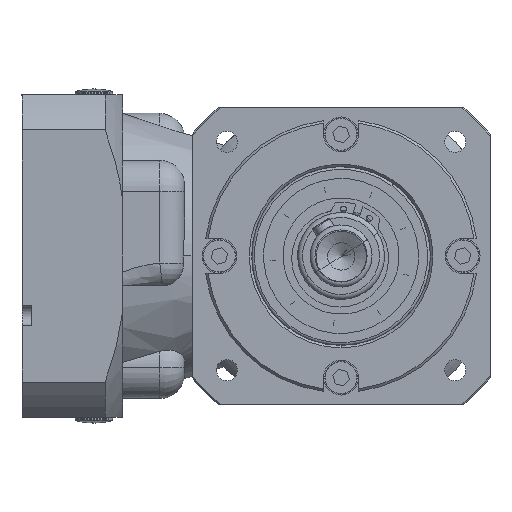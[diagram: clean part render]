
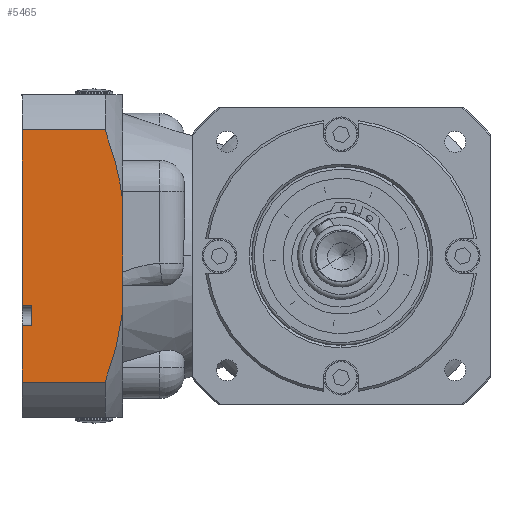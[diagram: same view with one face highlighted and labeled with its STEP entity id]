
A CAD part, left-side view. The second image highlights one B-rep face of the part: STEP entity #5465.
In plain terms, the highlighted planar face has unit normal (-1, 0, 0).
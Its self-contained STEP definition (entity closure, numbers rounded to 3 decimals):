
#662 = CARTESIAN_POINT ( 'NONE',  ( 108., 88.322, 25.033 ) ) ;
#796 = CARTESIAN_POINT ( 'NONE',  ( 108., 91.85, 41.691 ) ) ;
#867 = FACE_OUTER_BOUND ( 'NONE', #19891, .T. ) ;
#1062 = EDGE_CURVE ( 'NONE', #21695, #28788, #27944, .T. ) ;
#1340 = VECTOR ( 'NONE', #18465, 1000. ) ;
#1983 = VECTOR ( 'NONE', #16624, 1000. ) ;
#1986 = CARTESIAN_POINT ( 'NONE',  ( 108., 95.052, 50.806 ) ) ;
#2101 = VECTOR ( 'NONE', #8259, 1000. ) ;
#3272 = ORIENTED_EDGE ( 'NONE', *, *, #18742, .T. ) ;
#3423 = CARTESIAN_POINT ( 'NONE',  ( 108., 128.5, -65. ) ) ;
#3779 = EDGE_CURVE ( 'NONE', #20721, #31359, #21697, .T. ) ;
#4300 = CARTESIAN_POINT ( 'NONE',  ( 108., 128.5, -65. ) ) ;
#4452 = CARTESIAN_POINT ( 'NONE',  ( 108., 124.5, -20. ) ) ;
#4499 = ORIENTED_EDGE ( 'NONE', *, *, #29299, .F. ) ;
#4855 = VERTEX_POINT ( 'NONE', #10830 ) ;
#5333 = PLANE ( 'NONE',  #9742 ) ;
#5465 = ADVANCED_FACE ( 'NONE', ( #867 ), #5333, .F. ) ;
#5650 = DIRECTION ( 'NONE',  ( 0., -1., 0. ) ) ;
#6890 = ORIENTED_EDGE ( 'NONE', *, *, #11407, .F. ) ;
#7391 = CARTESIAN_POINT ( 'NONE',  ( 108., 93.288, 46.305 ) ) ;
#8015 = CARTESIAN_POINT ( 'NONE',  ( 108., 88., 22.62 ) ) ;
#8259 = DIRECTION ( 'NONE',  ( 0., 1., 0. ) ) ;
#8360 = CARTESIAN_POINT ( 'NONE',  ( 108., 88., -22.62 ) ) ;
#8402 = ORIENTED_EDGE ( 'NONE', *, *, #1062, .F. ) ;
#8787 = CARTESIAN_POINT ( 'NONE',  ( 108., 85.5, 50.806 ) ) ;
#9188 = CARTESIAN_POINT ( 'NONE',  ( 108., 88., -22.62 ) ) ;
#9742 = AXIS2_PLACEMENT_3D ( 'NONE', #11859, #34527, #28144 ) ;
#9800 = CARTESIAN_POINT ( 'NONE',  ( 108., 88., -65. ) ) ;
#10221 = EDGE_CURVE ( 'NONE', #25975, #31359, #29430, .T. ) ;
#10249 = CARTESIAN_POINT ( 'NONE',  ( 108., 88.703, 27.44 ) ) ;
#10602 = CARTESIAN_POINT ( 'NONE',  ( 108., 124.5, -65. ) ) ;
#10830 = CARTESIAN_POINT ( 'NONE',  ( 108., 128.5, -28. ) ) ;
#11407 = EDGE_CURVE ( 'NONE', #38146, #36465, #41942, .T. ) ;
#11859 = CARTESIAN_POINT ( 'NONE',  ( 108., 128.5, -65. ) ) ;
#13154 = CARTESIAN_POINT ( 'NONE',  ( 108., 93.254, -46.217 ) ) ;
#13348 = CARTESIAN_POINT ( 'NONE',  ( 108., 128.5, -20. ) ) ;
#13443 = ORIENTED_EDGE ( 'NONE', *, *, #37614, .T. ) ;
#14097 = CARTESIAN_POINT ( 'NONE',  ( 108., 128.5, 50.806 ) ) ;
#14758 = B_SPLINE_CURVE_WITH_KNOTS ( 'NONE', 3,
 ( #20207, #7391, #796, #29837, #16922, #10249, #662, #17068 ),
 .UNSPECIFIED., .F., .F.,
 ( 4, 2, 2, 4 ),
 ( 0.525, 0.539, 0.546, 0.553 ),
 .UNSPECIFIED. ) ;
#15630 = CARTESIAN_POINT ( 'NONE',  ( 108., 128.5, -20. ) ) ;
#15709 = CARTESIAN_POINT ( 'NONE',  ( 108., 88.639, -27.411 ) ) ;
#16092 = EDGE_CURVE ( 'NONE', #28788, #4855, #37578, .T. ) ;
#16620 = B_SPLINE_CURVE_WITH_KNOTS ( 'NONE', 3,
 ( #9188, #15709, #19991, #29480, #13154, #23277 ),
 .UNSPECIFIED., .F., .F.,
 ( 4, 2, 4 ),
 ( 0.023, 0.037, 0.052 ),
 .UNSPECIFIED. ) ;
#16624 = DIRECTION ( 'NONE',  ( 0., 0., 1. ) ) ;
#16881 = ORIENTED_EDGE ( 'NONE', *, *, #19244, .F. ) ;
#16922 = CARTESIAN_POINT ( 'NONE',  ( 108., 89.598, 32.244 ) ) ;
#17068 = CARTESIAN_POINT ( 'NONE',  ( 108., 88., 22.62 ) ) ;
#18465 = DIRECTION ( 'NONE',  ( 0., 1., 0. ) ) ;
#18742 = EDGE_CURVE ( 'NONE', #19044, #30837, #21777, .T. ) ;
#19044 = VERTEX_POINT ( 'NONE', #8360 ) ;
#19244 = EDGE_CURVE ( 'NONE', #19044, #21695, #16620, .T. ) ;
#19891 = EDGE_LOOP ( 'NONE', ( #16881, #3272, #4499, #6890, #25869, #26606, #36965, #13443, #25165, #8402 ) ) ;
#19991 = CARTESIAN_POINT ( 'NONE',  ( 108., 89.507, -32.163 ) ) ;
#20207 = CARTESIAN_POINT ( 'NONE',  ( 108., 95.052, 50.806 ) ) ;
#20721 = VERTEX_POINT ( 'NONE', #40248 ) ;
#20826 = VECTOR ( 'NONE', #38166, 1000. ) ;
#21695 = VERTEX_POINT ( 'NONE', #21715 ) ;
#21697 = LINE ( 'NONE', #10602, #29293 ) ;
#21715 = CARTESIAN_POINT ( 'NONE',  ( 108., 95.052, -50.806 ) ) ;
#21777 = LINE ( 'NONE', #9800, #1983 ) ;
#23277 = CARTESIAN_POINT ( 'NONE',  ( 108., 95.052, -50.806 ) ) ;
#24666 = LINE ( 'NONE', #28361, #1340 ) ;
#25165 = ORIENTED_EDGE ( 'NONE', *, *, #16092, .F. ) ;
#25869 = ORIENTED_EDGE ( 'NONE', *, *, #36188, .F. ) ;
#25975 = VERTEX_POINT ( 'NONE', #13348 ) ;
#26606 = ORIENTED_EDGE ( 'NONE', *, *, #10221, .T. ) ;
#27173 = DIRECTION ( 'NONE',  ( 0., 0., 1. ) ) ;
#27944 = LINE ( 'NONE', #28235, #2101 ) ;
#28144 = DIRECTION ( 'NONE',  ( 0., 0., -1. ) ) ;
#28235 = CARTESIAN_POINT ( 'NONE',  ( 108., 85.5, -50.806 ) ) ;
#28361 = CARTESIAN_POINT ( 'NONE',  ( 108., 128.5, -28. ) ) ;
#28788 = VERTEX_POINT ( 'NONE', #32547 ) ;
#29293 = VECTOR ( 'NONE', #27173, 1000. ) ;
#29299 = EDGE_CURVE ( 'NONE', #36465, #30837, #14758, .T. ) ;
#29430 = LINE ( 'NONE', #15630, #20826 ) ;
#29480 = CARTESIAN_POINT ( 'NONE',  ( 108., 91.815, -41.566 ) ) ;
#29499 = VECTOR ( 'NONE', #30251, 1000. ) ;
#29837 = CARTESIAN_POINT ( 'NONE',  ( 108., 90.109, 34.624 ) ) ;
#30251 = DIRECTION ( 'NONE',  ( 0., 0., 1. ) ) ;
#30837 = VERTEX_POINT ( 'NONE', #8015 ) ;
#31359 = VERTEX_POINT ( 'NONE', #4452 ) ;
#32067 = VECTOR ( 'NONE', #32874, 1000. ) ;
#32547 = CARTESIAN_POINT ( 'NONE',  ( 108., 128.5, -50.806 ) ) ;
#32874 = DIRECTION ( 'NONE',  ( 0., 0., 1. ) ) ;
#34137 = LINE ( 'NONE', #3423, #32067 ) ;
#34347 = VECTOR ( 'NONE', #5650, 1000. ) ;
#34527 = DIRECTION ( 'NONE',  ( 1., 0., 0. ) ) ;
#36188 = EDGE_CURVE ( 'NONE', #25975, #38146, #34137, .T. ) ;
#36465 = VERTEX_POINT ( 'NONE', #1986 ) ;
#36965 = ORIENTED_EDGE ( 'NONE', *, *, #3779, .F. ) ;
#37578 = LINE ( 'NONE', #4300, #29499 ) ;
#37614 = EDGE_CURVE ( 'NONE', #20721, #4855, #24666, .T. ) ;
#38146 = VERTEX_POINT ( 'NONE', #14097 ) ;
#38166 = DIRECTION ( 'NONE',  ( 0., -1., 0. ) ) ;
#40248 = CARTESIAN_POINT ( 'NONE',  ( 108., 124.5, -28. ) ) ;
#41942 = LINE ( 'NONE', #8787, #34347 ) ;
